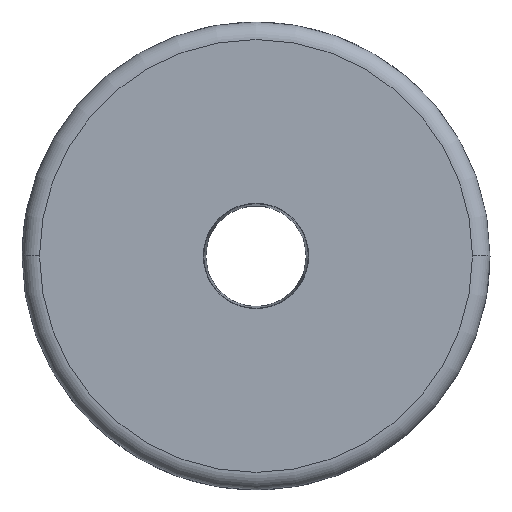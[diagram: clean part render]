
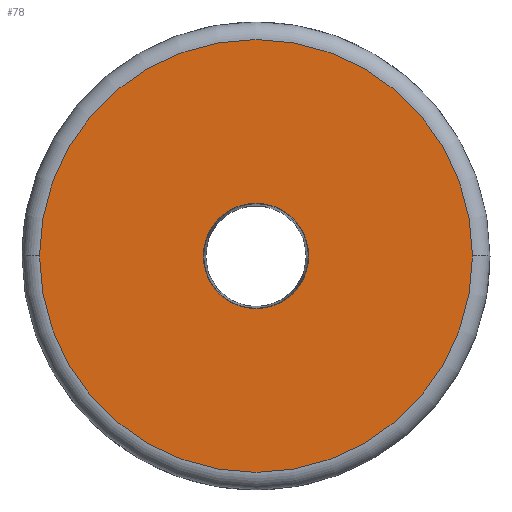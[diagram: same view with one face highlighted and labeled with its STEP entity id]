
A CAD part, top view. The second image highlights one B-rep face of the part: STEP entity #78.
In plain terms, the highlighted planar face has unit normal (0, 0, 1).
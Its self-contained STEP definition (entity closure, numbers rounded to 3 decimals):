
#78=ADVANCED_FACE('Solid_1',(#165,#166),#167,.T.);
#165=FACE_OUTER_BOUND('',#269,.T.);
#166=FACE_BOUND('',#270,.T.);
#167=PLANE('',#271);
#269=EDGE_LOOP('',(#399,#400));
#270=EDGE_LOOP('',(#401,#402));
#271=AXIS2_PLACEMENT_3D('',#403,#404,#405);
#399=ORIENTED_EDGE('',*,*,#570,.T.);
#400=ORIENTED_EDGE('',*,*,#567,.T.);
#401=ORIENTED_EDGE('',*,*,#575,.F.);
#402=ORIENTED_EDGE('',*,*,#576,.F.);
#403=CARTESIAN_POINT('',(0.0,0.0,2.0));
#404=DIRECTION('',(0.0,0.0,1.0));
#405=DIRECTION('',(1.0,0.0,0.0));
#567=EDGE_CURVE('',#657,#655,#658,.T.);
#570=EDGE_CURVE('',#655,#657,#661,.T.);
#575=EDGE_CURVE('',#668,#669,#670,.T.);
#576=EDGE_CURVE('',#669,#668,#671,.T.);
#655=VERTEX_POINT('',#865);
#657=VERTEX_POINT('',#867);
#658=CIRCLE('',#868,18.5);
#661=CIRCLE('',#871,18.5);
#668=VERTEX_POINT('',#878);
#669=VERTEX_POINT('',#879);
#670=CIRCLE('',#880,4.5);
#671=CIRCLE('',#881,4.5);
#865=CARTESIAN_POINT('',(18.5,0.0,2.0));
#867=CARTESIAN_POINT('',(-18.5,0.,2.0));
#868=AXIS2_PLACEMENT_3D('',#994,#995,#996);
#871=AXIS2_PLACEMENT_3D('',#1000,#1001,#1002);
#878=CARTESIAN_POINT('',(-4.5,0.,2.0));
#879=CARTESIAN_POINT('',(4.5,0.0,2.0));
#880=AXIS2_PLACEMENT_3D('',#1009,#1010,#1011);
#881=AXIS2_PLACEMENT_3D('',#1012,#1013,#1014);
#994=CARTESIAN_POINT('',(0.0,0.0,2.0));
#995=DIRECTION('',(0.0,0.0,1.0));
#996=DIRECTION('',(1.0,0.0,0.0));
#1000=CARTESIAN_POINT('',(0.0,0.0,2.0));
#1001=DIRECTION('',(0.0,0.0,1.0));
#1002=DIRECTION('',(1.0,0.0,0.0));
#1009=CARTESIAN_POINT('',(0.,0.,2.0));
#1010=DIRECTION('',(0.0,0.0,1.0));
#1011=DIRECTION('',(1.0,0.0,0.0));
#1012=CARTESIAN_POINT('',(0.,0.,2.0));
#1013=DIRECTION('',(0.0,0.0,1.0));
#1014=DIRECTION('',(1.0,0.0,0.0));
